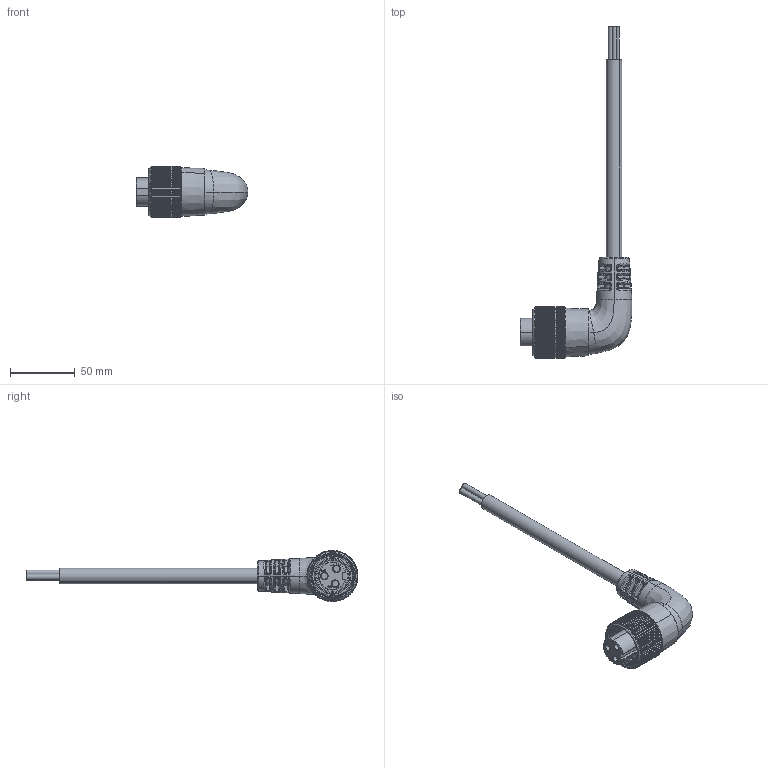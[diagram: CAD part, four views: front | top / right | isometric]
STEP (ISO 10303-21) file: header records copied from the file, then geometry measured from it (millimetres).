
FILE_DESCRIPTION (( 'STEP AP214' ), '1' );
FILE_NAME ('PMINW-30FP-ZZ-R-C011.STEP', '2020-10-21T17:10:24', ( '' ), ( '' ), 'SwSTEP 2.0', 'SolidWorks 2018', '' );
FILE_SCHEMA (( 'AUTOMOTIVE_DESIGN' ));
Length unit declared in the file: millimetre
Products named in the file (1): PMINW-30FP-ZZ-R-C011
Bounding box: 85.94 x 255.9 x 39.37 mm (x, y, z)
Volume: 106743.5 mm3; surface area: 27633 mm2
Topology: 5 solids, 5 shells, 897 faces, 2276 edges, 1419 vertices
Faces by surface type: plane 297, cylinder 217, bspline 167, cone 143, sphere 62, torus 11
Entity records: 45679 total; most frequent: CARTESIAN_POINT 15709, ORIENTED_EDGE 4544, DIRECTION 3820, EDGE_CURVE 2272, AXIS2_PLACEMENT_3D 1431, VERTEX_POINT 1417, VECTOR 958, LINE 958
